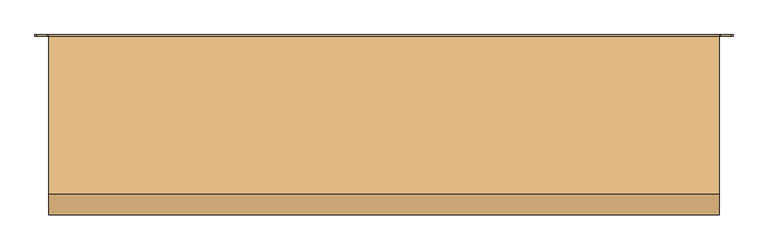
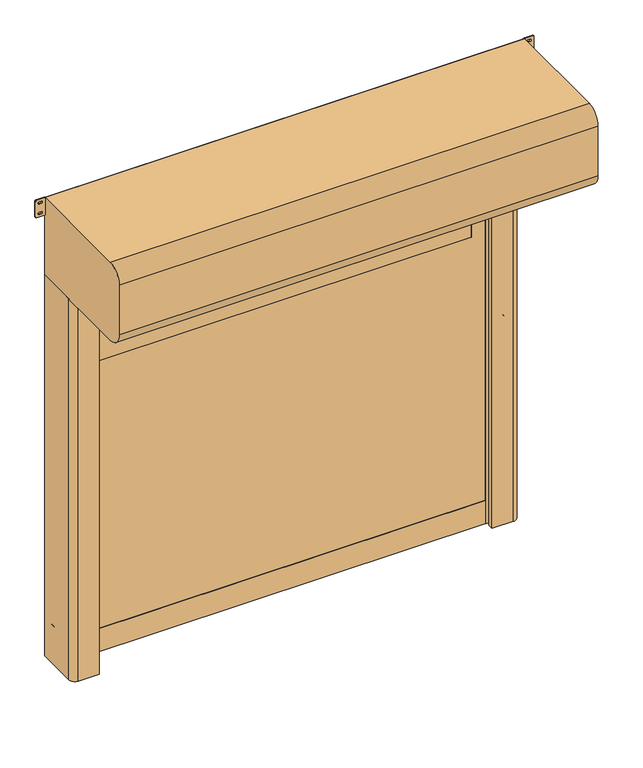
"""IFC4 building model written with IfcOpenShell, lengths in millimetres: door geometry, DO_WPB_Dynamicroll_BMP : Dynamicroll B-Drive."""

import ifcopenshell
import ifcopenshell.guid

model = None  # the IFC model being written
_history = None  # IfcOwnerHistory: only IFC2X3 demands one
_inside = {}  # id of a spatial element -> (the spatial element, [elements in it])
_under = {}  # id of a project, library or spatial element -> (it, [spatial elements below it])
_declared = {}  # id of a project -> (the project, [libraries it declares])
_typed = {}  # id of a type object -> (the type object, [elements of that type])
_made_of = {}  # id of a material, layer set ... -> (it, [elements and type objects made of it])


def new_model(schema):
    """Start an empty IFC model of exactly this schema.

    Asked for "IFC4X3", IfcOpenShell would pick the latest addendum, in which some entities
    have other attributes; the version numbers below select the first issue.
    IFC2X3 requires an IfcOwnerHistory on every rooted entity: one is made here for all.
    """
    global model, _history
    if schema == "IFC4X3":
        model = ifcopenshell.file(schema_version=(4, 3, 0, 0))
    else:
        model = ifcopenshell.file(schema=schema)
    _inside.clear()
    _under.clear()
    _declared.clear()
    _typed.clear()
    _made_of.clear()
    _history = None
    if model.schema == "IFC2X3":
        org = make("IfcOrganization", Name="unknown")
        user = make(
            "IfcPersonAndOrganization",
            ThePerson=make("IfcPerson", FamilyName="unknown"),
            TheOrganization=org,
        )
        app = make(
            "IfcApplication",
            ApplicationDeveloper=org,
            Version="unknown",
            ApplicationFullName="unknown",
            ApplicationIdentifier="unknown",
        )
        _history = make(
            "IfcOwnerHistory",
            OwningUser=user,
            OwningApplication=app,
            ChangeAction="ADDED",
            CreationDate=0,
        )
    return model


def make(cls, **values):
    """One entity of the class cls with the attributes given. An attribute that is None is left unset."""
    return model.create_entity(
        cls, **{name: value for name, value in values.items() if value is not None}
    )


def rooted(cls, **values):
    """An entity with a GlobalId (a new one), such as an element, a storey or a relation."""
    return make(cls, GlobalId=ifcopenshell.guid.new(), OwnerHistory=_history, **values)


def si_unit(unit_type, name, prefix=None):
    """IfcSIUnit, for example si_unit("LENGTHUNIT", "METRE", prefix="MILLI")."""
    return make("IfcSIUnit", UnitType=unit_type, Prefix=prefix, Name=name)


def assignment(units):
    """IfcUnitAssignment: the units of a project."""
    return None if units is None else make("IfcUnitAssignment", Units=units)


def point(xyz):
    """IfcCartesianPoint."""
    return None if xyz is None else make("IfcCartesianPoint", Coordinates=xyz)


def direction(xyz):
    """IfcDirection."""
    return None if xyz is None else make("IfcDirection", DirectionRatios=xyz)


def frame(location, z_axis=None, x_axis=None):
    """IfcAxis2Placement3D, a coordinate frame: its origin and axes. An axis left out is left unset."""
    return make(
        "IfcAxis2Placement3D",
        Location=point(location),
        Axis=direction(z_axis),
        RefDirection=direction(x_axis),
    )


def frame_2d(location, x_axis=None):
    """IfcAxis2Placement2D, a coordinate frame in the plane: its origin and x axis."""
    return make(
        "IfcAxis2Placement2D", Location=point(location), RefDirection=direction(x_axis)
    )


def origin():
    """The frame at (0, 0, 0) with its axes left unset."""
    return frame((0.0, 0.0, 0.0))


def origin_with_axes():
    """The frame at (0, 0, 0) with the z axis (0, 0, 1) and the x axis (1, 0, 0) written out."""
    return frame((0.0, 0.0, 0.0), z_axis=(0.0, 0.0, 1.0), x_axis=(1.0, 0.0, 0.0))


def place(relative_to, where):
    """IfcLocalPlacement: puts the frame where relative to a parent placement (None: the world)."""
    return make(
        "IfcLocalPlacement", PlacementRelTo=relative_to, RelativePlacement=where
    )


def context(
    kind, dimensions, precision=None, world=None, true_north=None, identifier=None
):
    """IfcGeometricRepresentationContext, for example the 3D "Model" context."""
    return make(
        "IfcGeometricRepresentationContext",
        ContextIdentifier=identifier,
        ContextType=kind,
        CoordinateSpaceDimension=dimensions,
        Precision=precision,
        WorldCoordinateSystem=world,
        TrueNorth=true_north,
    )


def project(units=None, contexts=None):
    """IfcProject with its units and contexts."""
    return rooted(
        "IfcProject",
        Name="project",
        RepresentationContexts=contexts,
        UnitsInContext=assignment(units),
    )


def spatial(cls, under=None, at=None, **own):
    """A site, building, storey or space (cls), placed at a placement, below another one or the project."""
    s = rooted(cls, ObjectPlacement=at, **own)
    if under is not None:
        _under.setdefault(under.id(), (under, []))[1].append(s)
    return s


def polyline(points):
    """IfcPolyline through the points."""
    return make("IfcPolyline", Points=[point(p) for p in points])


def circle_curve(where, radius):
    """IfcCircle in the frame where."""
    return make("IfcCircle", Position=where, Radius=radius)


def trimmed(basis, trim1, trim2, sense, master):
    """IfcTrimmedCurve: the piece of a basis curve between two trims."""
    return make(
        "IfcTrimmedCurve",
        BasisCurve=basis,
        Trim1=trim1,
        Trim2=trim2,
        SenseAgreement=sense,
        MasterRepresentation=master,
    )


def segment(curve, same_sense, transition):
    """IfcCompositeCurveSegment."""
    return make(
        "IfcCompositeCurveSegment",
        Transition=transition,
        SameSense=same_sense,
        ParentCurve=curve,
    )


def composite_curve(segments, self_intersect=None):
    """IfcCompositeCurve: segments joined end to end."""
    return make("IfcCompositeCurve", Segments=segments, SelfIntersect=self_intersect)


def outline(outer, holes=None, kind="AREA"):
    """IfcArbitraryClosedProfileDef: a profile drawn as a closed curve; with holes, ...WithVoids."""
    if holes is None:
        return make("IfcArbitraryClosedProfileDef", ProfileType=kind, OuterCurve=outer)
    return make(
        "IfcArbitraryProfileDefWithVoids",
        ProfileType=kind,
        OuterCurve=outer,
        InnerCurves=holes,
    )


def extrude(swept, where, along, depth):
    """IfcExtrudedAreaSolid: the profile swept, set in the frame where, extruded along a direction by depth."""
    return make(
        "IfcExtrudedAreaSolid",
        SweptArea=swept,
        Position=where,
        ExtrudedDirection=direction(along),
        Depth=depth,
    )


def shape(context_of_items, identifier, shape_type, items):
    """IfcShapeRepresentation: the items that make up one representation, for example the "Body"."""
    return make(
        "IfcShapeRepresentation",
        ContextOfItems=context_of_items,
        RepresentationIdentifier=identifier,
        RepresentationType=shape_type,
        Items=items,
    )


def source(mapping_origin, context_of_items, identifier, shape_type, items):
    """IfcRepresentationMap: a shape defined once, which mapped items show again and again."""
    return make(
        "IfcRepresentationMap",
        MappingOrigin=mapping_origin,
        MappedRepresentation=shape(context_of_items, identifier, shape_type, items),
    )


def transform(
    local_origin,
    x_axis=None,
    y_axis=None,
    z_axis=None,
    scale=None,
    scale2=None,
    scale3=None,
    uniform=True,
):
    """IfcCartesianTransformationOperator3D, or its non-uniform kind. x_axis, y_axis, z_axis: its Axis1, 2, 3."""
    if uniform:
        return make(
            "IfcCartesianTransformationOperator3D",
            Axis1=direction(x_axis),
            Axis2=direction(y_axis),
            LocalOrigin=point(local_origin),
            Scale=scale,
            Axis3=direction(z_axis),
        )
    return make(
        "IfcCartesianTransformationOperator3DnonUniform",
        Axis1=direction(x_axis),
        Axis2=direction(y_axis),
        LocalOrigin=point(local_origin),
        Scale=scale,
        Axis3=direction(z_axis),
        Scale2=scale2,
        Scale3=scale3,
    )


def mapped(mapping_source, mapping_target):
    """IfcMappedItem: shows the shape of a source again, moved by a transform."""
    return make(
        "IfcMappedItem", MappingSource=mapping_source, MappingTarget=mapping_target
    )


def made_of(thing, what):
    """Note that an element or type object is made of a material, layer set ...; save() writes the relation."""
    if what is not None:
        _made_of.setdefault(what.id(), (what, []))[1].append(thing)
    return thing


def element(
    cls,
    number,
    at=None,
    inside=None,
    cuts=None,
    type_object=None,
    material=None,
    context=None,
    identifier="Body",
    shape_type=None,
    held_by="IfcProductDefinitionShape",
    body=None,
    shapes=None,
    **own,
):
    """One element of the class cls, such as IfcWall. Its Tag is "e" and its number.

    at: its placement. inside: the storey or other place that contains it. cuts: it is an
    opening in that element (IfcRelVoidsElement). A single representation is given by context,
    identifier, shape_type and body (its items); several are given by shapes. held_by: the class
    of the entity that holds the representations. save() writes the other relations.
    """
    e = rooted(cls, Tag="e%d" % number, ObjectPlacement=at, **own)
    if body is not None:
        shapes = [shape(context, identifier, shape_type, body)]
    if shapes is not None:
        e.Representation = make(held_by, Representations=shapes)
    if inside is not None:
        _inside.setdefault(inside.id(), (inside, []))[1].append(e)
    if cuts is not None:
        rooted(
            "IfcRelVoidsElement", RelatingBuildingElement=cuts, RelatedOpeningElement=e
        )
    if type_object is not None:
        _typed.setdefault(type_object.id(), (type_object, []))[1].append(e)
    return made_of(e, material)


def aggregate(whole, parts):
    """IfcRelAggregates: a whole, such as a stair, and the parts it consists of."""
    return rooted("IfcRelAggregates", RelatingObject=whole, RelatedObjects=parts)


def save(model, path):
    """Write the relations noted so far, then the file.

    IfcRelAggregates (storeys below a building ...), IfcRelContainedInSpatialStructure (elements
    in a storey), IfcRelDefinesByType, IfcRelAssociatesMaterial and IfcRelDeclares: one each for
    every whole, place, type object, material and project.
    """
    for whole, parts in _under.values():
        aggregate(whole, parts)
    for where, things in _inside.values():
        rooted(
            "IfcRelContainedInSpatialStructure",
            RelatedElements=things,
            RelatingStructure=where,
        )
    for kind, things in _typed.values():
        rooted("IfcRelDefinesByType", RelatedObjects=things, RelatingType=kind)
    for what, things in _made_of.values():
        rooted("IfcRelAssociatesMaterial", RelatedObjects=things, RelatingMaterial=what)
    for by, libraries in _declared.values():
        rooted("IfcRelDeclares", RelatingContext=by, RelatedDefinitions=libraries)
    model.write(path)


def door_8d8b76a4(model_context):
    return source(origin(), model_context, "Body", "SweptSolid", [
        extrude(outline(composite_curve([segment(trimmed(circle_curve(frame_2d((1000.0, 1109.0)), 6.0), [point((1006.0, 1109.0))], [point((994.0, 1109.0))], False, "CARTESIAN"), True, "CONTINUOUS"), segment(polyline([(994.0, 1109.0), (994.0, 1127.0)]), True, "CONTINUOUS"), segment(trimmed(circle_curve(frame_2d((1000.0, 1127.0)), 6.0), [point((994.0, 1127.0))], [point((1006.0, 1127.0))], False, "CARTESIAN"), True, "CONTINUOUS"), segment(polyline([(1006.0, 1127.0), (1006.0, 1109.0)]), True, "CONTINUOUS")], self_intersect=False)), frame((0.0, -20.0, 0.0), z_axis=(0.0, 1.0, 0.0), x_axis=(0.0, 0.0, 1.0)), (0.0, 0.0, 1.0), 20.0),
        extrude(outline(composite_curve([segment(trimmed(circle_curve(frame_2d((1850.0, 1109.0)), 6.0), [point((1856.0, 1109.0))], [point((1844.0, 1109.0))], False, "CARTESIAN"), True, "CONTINUOUS"), segment(polyline([(1844.0, 1109.0), (1844.0, 1127.0)]), True, "CONTINUOUS"), segment(trimmed(circle_curve(frame_2d((1850.0, 1127.0)), 6.0), [point((1844.0, 1127.0))], [point((1856.0, 1127.0))], False, "CARTESIAN"), True, "CONTINUOUS"), segment(polyline([(1856.0, 1127.0), (1856.0, 1109.0)]), True, "CONTINUOUS")], self_intersect=False)), frame((0.0, -20.0, 0.0), z_axis=(0.0, 1.0, 0.0), x_axis=(0.0, 0.0, 1.0)), (0.0, 0.0, 1.0), 20.0),
        extrude(outline(composite_curve([segment(trimmed(circle_curve(frame_2d((150.0, 1109.0)), 6.0), [point((156.0, 1109.0))], [point((144.0, 1109.0))], False, "CARTESIAN"), True, "CONTINUOUS"), segment(polyline([(144.0, 1109.0), (144.0, 1127.0)]), True, "CONTINUOUS"), segment(trimmed(circle_curve(frame_2d((150.0, 1127.0)), 6.0), [point((144.0, 1127.0))], [point((156.0, 1127.0))], False, "CARTESIAN"), True, "CONTINUOUS"), segment(polyline([(156.0, 1127.0), (156.0, 1109.0)]), True, "CONTINUOUS")], self_intersect=False)), frame((0.0, -20.0, 0.0), z_axis=(0.0, 1.0, 0.0), x_axis=(0.0, 0.0, 1.0)), (0.0, 0.0, 1.0), 20.0),
        extrude(outline(composite_curve([segment(polyline([(1006.0, -1109.0), (1006.0, -1127.0)]), True, "CONTINUOUS"), segment(trimmed(circle_curve(frame_2d((1000.0, -1127.0)), 6.0), [point((1006.0, -1127.0))], [point((994.0, -1127.0))], False, "CARTESIAN"), True, "CONTINUOUS"), segment(polyline([(994.0, -1127.0), (994.0, -1109.0)]), True, "CONTINUOUS"), segment(trimmed(circle_curve(frame_2d((1000.0, -1109.0)), 6.0), [point((994.0, -1109.0))], [point((1006.0, -1109.0))], False, "CARTESIAN"), True, "CONTINUOUS")], self_intersect=False)), frame((0.0, -20.0, 0.0), z_axis=(0.0, 1.0, 0.0), x_axis=(0.0, 0.0, 1.0)), (0.0, 0.0, 1.0), 20.0),
        extrude(outline(composite_curve([segment(polyline([(1856.0, -1109.0), (1856.0, -1127.0)]), True, "CONTINUOUS"), segment(trimmed(circle_curve(frame_2d((1850.0, -1127.0)), 6.0), [point((1856.0, -1127.0))], [point((1844.0, -1127.0))], False, "CARTESIAN"), True, "CONTINUOUS"), segment(polyline([(1844.0, -1127.0), (1844.0, -1109.0)]), True, "CONTINUOUS"), segment(trimmed(circle_curve(frame_2d((1850.0, -1109.0)), 6.0), [point((1844.0, -1109.0))], [point((1856.0, -1109.0))], False, "CARTESIAN"), True, "CONTINUOUS")], self_intersect=False)), frame((0.0, -20.0, 0.0), z_axis=(0.0, 1.0, 0.0), x_axis=(0.0, 0.0, 1.0)), (0.0, 0.0, 1.0), 20.0),
        extrude(outline(composite_curve([segment(polyline([(156.0, -1109.0), (156.0, -1127.0)]), True, "CONTINUOUS"), segment(trimmed(circle_curve(frame_2d((150.0, -1127.0)), 6.0), [point((156.0, -1127.0))], [point((144.0, -1127.0))], False, "CARTESIAN"), True, "CONTINUOUS"), segment(polyline([(144.0, -1127.0), (144.0, -1109.0)]), True, "CONTINUOUS"), segment(trimmed(circle_curve(frame_2d((150.0, -1109.0)), 6.0), [point((144.0, -1109.0))], [point((156.0, -1109.0))], False, "CARTESIAN"), True, "CONTINUOUS")], self_intersect=False)), frame((0.0, -20.0, 0.0), z_axis=(0.0, 1.0, 0.0), x_axis=(0.0, 0.0, 1.0)), (0.0, 0.0, 1.0), 20.0),
        extrude(outline(composite_curve([segment(trimmed(circle_curve(frame_2d((1526.0, 929.0)), 1.0), [point((1525.0, 929.0))], [point((1526.0, 930.0))], False, "CARTESIAN"), True, "CONTINUOUS"), segment(polyline([(1526.0, 930.0), (2024.0, 930.0)]), True, "CONTINUOUS"), segment(trimmed(circle_curve(frame_2d((2024.0, 929.0)), 1.0), [point((2024.0, 930.0))], [point((2025.0, 929.0))], False, "CARTESIAN"), True, "CONTINUOUS"), segment(polyline([(2025.0, 929.0), (2025.0, -929.0)]), True, "CONTINUOUS"), segment(trimmed(circle_curve(frame_2d((2024.0, -929.0)), 1.0), [point((2025.0, -929.0))], [point((2024.0, -930.0))], False, "CARTESIAN"), True, "CONTINUOUS"), segment(polyline([(2024.0, -930.0), (1526.0, -930.0)]), True, "CONTINUOUS"), segment(trimmed(circle_curve(frame_2d((1526.0, -929.0)), 1.0), [point((1526.0, -930.0))], [point((1525.0, -929.0))], False, "CARTESIAN"), True, "CONTINUOUS"), segment(polyline([(1525.0, -929.0), (1525.0, 929.0)]), True, "CONTINUOUS")], self_intersect=False)), frame((0.0, -86.0, 0.0), z_axis=(0.0, 1.0, 0.0), x_axis=(0.0, 0.0, 1.0)), (0.0, 0.0, 1.0), 7.0),
        extrude(outline(polyline([(120.0, -1012.0), (120.0, 1012.0), (2205.0, 1012.0), (2205.0, -1012.0), (120.0, -1012.0)]), holes=[composite_curve([segment(trimmed(circle_curve(frame_2d((1526.0, 929.0)), 1.0), [point((1526.0, 930.0))], [point((1525.0, 929.0))], True, "CARTESIAN"), True, "CONTINUOUS"), segment(polyline([(1525.0, 929.0), (1525.0, -929.0)]), True, "CONTINUOUS"), segment(trimmed(circle_curve(frame_2d((1526.0, -929.0)), 1.0), [point((1525.0, -929.0))], [point((1526.0, -930.0))], True, "CARTESIAN"), True, "CONTINUOUS"), segment(polyline([(1526.0, -930.0), (2024.0, -930.0)]), True, "CONTINUOUS"), segment(trimmed(circle_curve(frame_2d((2024.0, -929.0)), 1.0), [point((2024.0, -930.0))], [point((2025.0, -929.0))], True, "CARTESIAN"), True, "CONTINUOUS"), segment(polyline([(2025.0, -929.0), (2025.0, 929.0)]), True, "CONTINUOUS"), segment(trimmed(circle_curve(frame_2d((2024.0, 929.0)), 1.0), [point((2025.0, 929.0))], [point((2024.0, 930.0))], True, "CARTESIAN"), True, "CONTINUOUS"), segment(polyline([(2024.0, 930.0), (1526.0, 930.0)]), True, "CONTINUOUS")], self_intersect=False)]), frame((0.0, -86.0, 0.0), z_axis=(0.0, 1.0, 0.0), x_axis=(0.0, 0.0, 1.0)), (0.0, 0.0, 1.0), 7.0),
        extrude(outline(polyline([(-1012.0, -77.0), (1012.0, -77.0), (1012.0, -88.0), (-1012.0, -88.0), (-1012.0, -77.0)])), origin_with_axes(), (0.0, 0.0, 1.0), 120.0),
        extrude(outline(composite_curve([segment(trimmed(circle_curve(frame_2d((2323.75, 1245.75)), 5.75), [point((2323.75, 1240.0))], [point((2318.0, 1245.75))], False, "CARTESIAN"), True, "CONTINUOUS"), segment(polyline([(2318.0, 1245.75), (2318.0, 1283.25)]), True, "CONTINUOUS"), segment(trimmed(circle_curve(frame_2d((2323.75, 1283.25)), 5.75), [point((2318.0, 1283.25))], [point((2323.75, 1289.0))], False, "CARTESIAN"), True, "CONTINUOUS"), segment(polyline([(2323.75, 1289.0), (2404.25, 1289.0)]), True, "CONTINUOUS"), segment(trimmed(circle_curve(frame_2d((2404.25, 1283.25)), 5.75), [point((2404.25, 1289.0))], [point((2410.0, 1283.25))], False, "CARTESIAN"), True, "CONTINUOUS"), segment(polyline([(2410.0, 1283.25), (2410.0, 1245.75)]), True, "CONTINUOUS"), segment(trimmed(circle_curve(frame_2d((2404.25, 1245.75)), 5.75), [point((2410.0, 1245.75))], [point((2404.25, 1240.0))], False, "CARTESIAN"), True, "CONTINUOUS"), segment(polyline([(2404.25, 1240.0), (2323.75, 1240.0)]), True, "CONTINUOUS")], self_intersect=False), holes=[composite_curve([segment(trimmed(circle_curve(frame_2d((2391.5, 1268.75)), 5.75), [point((2397.25, 1268.75))], [point((2385.75, 1268.75))], True, "CARTESIAN"), True, "CONTINUOUS"), segment(polyline([(2385.75, 1268.75), (2385.75, 1260.25)]), True, "CONTINUOUS"), segment(trimmed(circle_curve(frame_2d((2391.5, 1260.25)), 5.75), [point((2385.75, 1260.25))], [point((2397.25, 1260.25))], True, "CARTESIAN"), True, "CONTINUOUS"), segment(polyline([(2397.25, 1260.25), (2397.25, 1268.75)]), True, "CONTINUOUS")], self_intersect=False), composite_curve([segment(trimmed(circle_curve(frame_2d((2336.5, 1268.75)), 5.75), [point((2342.25, 1268.75))], [point((2330.75, 1268.75))], True, "CARTESIAN"), True, "CONTINUOUS"), segment(polyline([(2330.75, 1268.75), (2330.75, 1260.25)]), True, "CONTINUOUS"), segment(trimmed(circle_curve(frame_2d((2336.5, 1260.25)), 5.75), [point((2330.75, 1260.25))], [point((2342.25, 1260.25))], True, "CARTESIAN"), True, "CONTINUOUS"), segment(polyline([(2342.25, 1260.25), (2342.25, 1268.75)]), True, "CONTINUOUS")], self_intersect=False)]), frame((0.0, -5.0, 0.0), z_axis=(0.0, 1.0, 0.0), x_axis=(0.0, 0.0, 1.0)), (0.0, 0.0, 1.0), 5.0),
        extrude(outline(composite_curve([segment(trimmed(circle_curve(frame_2d((2323.75, -1183.25)), 5.75), [point((2323.75, -1189.0))], [point((2318.0, -1183.25))], False, "CARTESIAN"), True, "CONTINUOUS"), segment(polyline([(2318.0, -1183.25), (2318.0, -1145.75)]), True, "CONTINUOUS"), segment(trimmed(circle_curve(frame_2d((2323.75, -1145.75)), 5.75), [point((2318.0, -1145.75))], [point((2323.75, -1140.0))], False, "CARTESIAN"), True, "CONTINUOUS"), segment(polyline([(2323.75, -1140.0), (2404.25, -1140.0)]), True, "CONTINUOUS"), segment(trimmed(circle_curve(frame_2d((2404.25, -1145.75)), 5.75), [point((2404.25, -1140.0))], [point((2410.0, -1145.75))], False, "CARTESIAN"), True, "CONTINUOUS"), segment(polyline([(2410.0, -1145.75), (2410.0, -1183.25)]), True, "CONTINUOUS"), segment(trimmed(circle_curve(frame_2d((2404.25, -1183.25)), 5.75), [point((2410.0, -1183.25))], [point((2404.25, -1189.0))], False, "CARTESIAN"), True, "CONTINUOUS"), segment(polyline([(2404.25, -1189.0), (2323.75, -1189.0)]), True, "CONTINUOUS")], self_intersect=False), holes=[composite_curve([segment(trimmed(circle_curve(frame_2d((2391.5, -1160.25)), 5.75), [point((2397.25, -1160.25))], [point((2385.75, -1160.25))], True, "CARTESIAN"), True, "CONTINUOUS"), segment(polyline([(2385.75, -1160.25), (2385.75, -1168.75)]), True, "CONTINUOUS"), segment(trimmed(circle_curve(frame_2d((2391.5, -1168.75)), 5.75), [point((2385.75, -1168.75))], [point((2397.25, -1168.75))], True, "CARTESIAN"), True, "CONTINUOUS"), segment(polyline([(2397.25, -1168.75), (2397.25, -1160.25)]), True, "CONTINUOUS")], self_intersect=False), composite_curve([segment(trimmed(circle_curve(frame_2d((2336.5, -1160.25)), 5.75), [point((2342.25, -1160.25))], [point((2330.75, -1160.25))], True, "CARTESIAN"), True, "CONTINUOUS"), segment(polyline([(2330.75, -1160.25), (2330.75, -1168.75)]), True, "CONTINUOUS"), segment(trimmed(circle_curve(frame_2d((2336.5, -1168.75)), 5.75), [point((2330.75, -1168.75))], [point((2342.25, -1168.75))], True, "CARTESIAN"), True, "CONTINUOUS"), segment(polyline([(2342.25, -1168.75), (2342.25, -1160.25)]), True, "CONTINUOUS")], self_intersect=False)]), frame((0.0, -5.0, 0.0), z_axis=(0.0, 1.0, 0.0), x_axis=(0.0, 0.0, 1.0)), (0.0, 0.0, 1.0), 5.0),
        extrude(outline(composite_curve([segment(polyline([(-1140.0, 0.0), (-1015.0, 0.0), (-1015.0, -66.7857143), (-1035.0, -72.5), (-1000.0, -72.5), (-1000.0, -79.0), (-1020.0, -79.0), (-1020.0, -86.0), (-1000.0, -86.0), (-1000.0, -92.5), (-1035.0, -92.5), (-1035.0, -107.5), (-1005.0, -107.5), (-1005.0, -235.0), (-1110.0, -235.0)]), True, "CONTINUOUS"), segment(trimmed(circle_curve(frame_2d((-1110.0, -205.0)), 30.0), [point((-1110.0, -235.0))], [point((-1140.0, -205.0))], False, "CARTESIAN"), True, "CONTINUOUS"), segment(polyline([(-1140.0, -205.0), (-1140.0, 0.0)]), True, "CONTINUOUS")], self_intersect=False)), origin_with_axes(), (0.0, 0.0, 1.0), 2000.0),
        extrude(outline(composite_curve([segment(polyline([(1140.0, 0.0), (1140.0, -105.0)]), True, "CONTINUOUS"), segment(trimmed(circle_curve(frame_2d((1110.0, -105.0)), 30.0), [point((1140.0, -105.0))], [point((1110.0, -135.0))], False, "CARTESIAN"), True, "CONTINUOUS"), segment(polyline([(1110.0, -135.0), (1005.0, -135.0), (1005.0, -107.5), (1035.0, -107.5), (1035.0, -92.5), (1000.0, -92.5), (1000.0, -86.0), (1020.0, -86.0), (1020.0, -79.0), (1000.0, -79.0), (1000.0, -72.5), (1035.0, -72.5), (1015.0, -66.7857143), (1015.0, 0.0), (1140.0, 0.0)]), True, "CONTINUOUS")], self_intersect=False)), origin_with_axes(), (0.0, 0.0, 1.0), 2000.0),
        extrude(outline(composite_curve([segment(trimmed(circle_curve(frame_2d((-5.0, 2005.0)), 5.0), [point((0.0, 2005.0))], [point((-5.0, 2000.0))], False, "CARTESIAN"), True, "CONTINUOUS"), segment(polyline([(-5.0, 2000.0), (-565.0, 2000.0)]), True, "CONTINUOUS"), segment(trimmed(circle_curve(frame_2d((-565.0, 2075.0)), 75.0), [point((-565.0, 2000.0))], [point((-640.0, 2075.0))], False, "CARTESIAN"), True, "CONTINUOUS"), segment(polyline([(-640.0, 2075.0), (-640.0, 2335.0)]), True, "CONTINUOUS"), segment(trimmed(circle_curve(frame_2d((-565.0, 2335.0)), 75.0), [point((-640.0, 2335.0))], [point((-565.0, 2410.0))], False, "CARTESIAN"), True, "CONTINUOUS"), segment(polyline([(-565.0, 2410.0), (-5.0, 2410.0)]), True, "CONTINUOUS"), segment(trimmed(circle_curve(frame_2d((-5.0, 2405.0)), 5.0), [point((-5.0, 2410.0))], [point((0.0, 2405.0))], False, "CARTESIAN"), True, "CONTINUOUS"), segment(polyline([(0.0, 2405.0), (0.0, 2005.0)]), True, "CONTINUOUS")], self_intersect=False)), frame((-1140.0, 0.0, 0.0), z_axis=(1.0, 0.0, 0.0), x_axis=(0.0, 1.0, 0.0)), (0.0, 0.0, 1.0), 2380.0),
    ])


if __name__ == "__main__":
    model = new_model("IFC4")
    model_context = context("Model", 3, world=origin())
    ifc_project = project(units=[si_unit("LENGTHUNIT", "METRE", prefix="MILLI")], contexts=[model_context])
    site = spatial("IfcSite", under=ifc_project)
    building = spatial("IfcBuilding", under=site)
    placement = place(None, origin())
    door_shape = door_8d8b76a4(model_context)
    element("IfcDoor", 1, ObjectType="DO_WPB_Dynamicroll_BMP : Dynamicroll B-Drive", at=placement, inside=building, context=model_context, shape_type="MappedRepresentation", body=[
        mapped(door_shape, transform((0.0, 0.0, 0.0), x_axis=(1.0, 0.0, 0.0), y_axis=(0.0, 1.0, 0.0), z_axis=(0.0, 0.0, 1.0))),
    ])
    save(model, "model.ifc")
